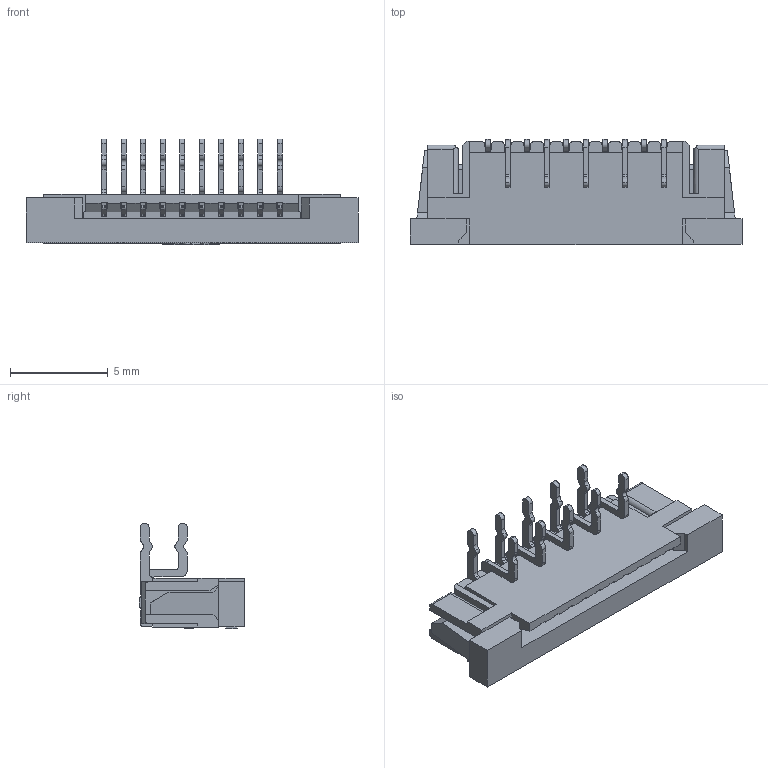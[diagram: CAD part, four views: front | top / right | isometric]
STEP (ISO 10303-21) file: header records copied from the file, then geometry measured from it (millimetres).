
FILE_DESCRIPTION (( 'STEP AP203' ), '1' );
FILE_NAME ('GT-F1014DR25-10SBT01.STEP', '2024-01-15T02:13:45', ( 'Microsoft' ), ( 'Microsoft' ), 'SwSTEP 2.0', 'SolidWorks 2023', '' );
FILE_SCHEMA (( 'CONFIG_CONTROL_DESIGN' ));
Length unit declared in the file: millimetre
Products named in the file (1): GT-F1014DR25-10SBT01
Bounding box: 17 x 5.4 x 5.42 mm (x, y, z)
Volume: 171.2 mm3; surface area: 752.7 mm2
Topology: 11 solids, 11 shells, 1377 faces, 4030 edges, 2670 vertices
Faces by surface type: plane 889, cylinder 408, bspline 80
Entity records: 49568 total; most frequent: CARTESIAN_POINT 12659, ORIENTED_EDGE 8060, DIRECTION 7255, EDGE_CURVE 4030, LINE 3047, VECTOR 3047, VERTEX_POINT 2670, AXIS2_PLACEMENT_3D 2104
